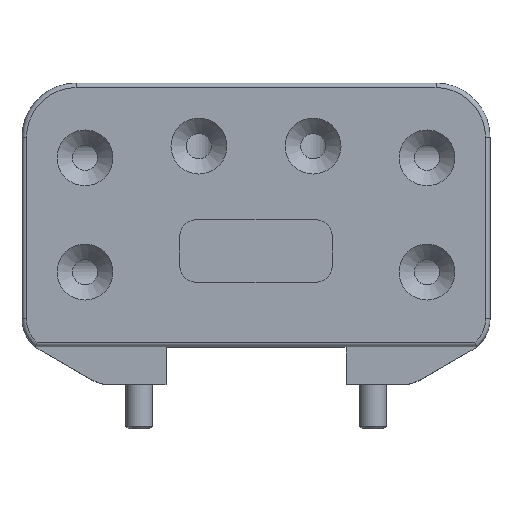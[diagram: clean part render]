
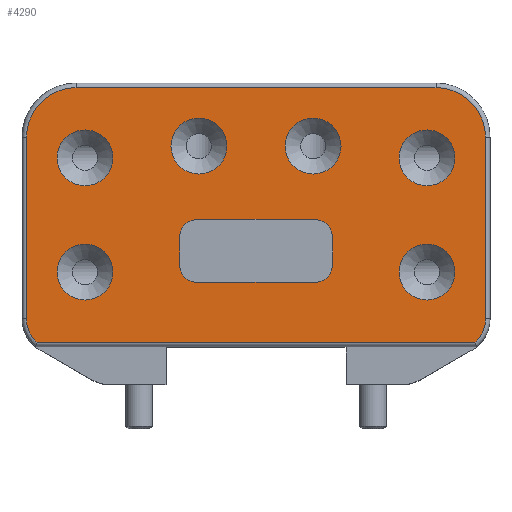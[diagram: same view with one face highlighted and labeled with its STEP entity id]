
A CAD part, top view. The second image highlights one B-rep face of the part: STEP entity #4290.
In plain terms, the highlighted planar face has unit normal (0, 0, 1).
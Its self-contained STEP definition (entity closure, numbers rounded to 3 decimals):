
#165=FACE_BOUND('',#642,.T.);
#166=FACE_BOUND('',#643,.T.);
#167=FACE_BOUND('',#644,.T.);
#168=FACE_BOUND('',#645,.T.);
#169=FACE_BOUND('',#646,.T.);
#170=FACE_BOUND('',#647,.T.);
#171=FACE_BOUND('',#648,.T.);
#241=PLANE('',#4678);
#394=FACE_OUTER_BOUND('',#641,.T.);
#641=EDGE_LOOP('',(#3127,#3128,#3129,#3130,#3131,#3132,#3133,#3134));
#642=EDGE_LOOP('',(#3135));
#643=EDGE_LOOP('',(#3136));
#644=EDGE_LOOP('',(#3137));
#645=EDGE_LOOP('',(#3138,#3139,#3140,#3141,#3142,#3143,#3144,#3145));
#646=EDGE_LOOP('',(#3146));
#647=EDGE_LOOP('',(#3147));
#648=EDGE_LOOP('',(#3148));
#908=LINE('',#6778,#1175);
#911=LINE('',#6821,#1178);
#913=LINE('',#6833,#1180);
#915=LINE('',#6845,#1182);
#928=LINE('',#6895,#1195);
#929=LINE('',#6899,#1196);
#930=LINE('',#6903,#1197);
#931=LINE('',#6906,#1198);
#1175=VECTOR('',#5436,10.);
#1178=VECTOR('',#5451,10.);
#1180=VECTOR('',#5465,10.);
#1182=VECTOR('',#5479,10.);
#1195=VECTOR('',#5528,10.);
#1196=VECTOR('',#5531,10.);
#1197=VECTOR('',#5534,10.);
#1198=VECTOR('',#5537,10.);
#1458=CIRCLE('',#4648,3.5);
#1464=CIRCLE('',#4656,5.5);
#1468=CIRCLE('',#4662,5.5);
#1471=CIRCLE('',#4667,3.5);
#1478=CIRCLE('',#4679,3.1);
#1479=CIRCLE('',#4680,3.1);
#1480=CIRCLE('',#4681,3.1);
#1481=CIRCLE('',#4682,2.);
#1482=CIRCLE('',#4683,2.);
#1483=CIRCLE('',#4684,2.);
#1484=CIRCLE('',#4685,2.);
#1485=CIRCLE('',#4686,3.1);
#1486=CIRCLE('',#4687,3.1);
#1487=CIRCLE('',#4688,3.1);
#1788=VERTEX_POINT('',#6776);
#1789=VERTEX_POINT('',#6777);
#1792=VERTEX_POINT('',#6811);
#1794=VERTEX_POINT('',#6817);
#1796=VERTEX_POINT('',#6823);
#1798=VERTEX_POINT('',#6829);
#1800=VERTEX_POINT('',#6835);
#1802=VERTEX_POINT('',#6841);
#1817=VERTEX_POINT('',#6885);
#1818=VERTEX_POINT('',#6887);
#1819=VERTEX_POINT('',#6889);
#1820=VERTEX_POINT('',#6891);
#1821=VERTEX_POINT('',#6892);
#1822=VERTEX_POINT('',#6894);
#1823=VERTEX_POINT('',#6896);
#1824=VERTEX_POINT('',#6898);
#1825=VERTEX_POINT('',#6900);
#1826=VERTEX_POINT('',#6902);
#1827=VERTEX_POINT('',#6904);
#1828=VERTEX_POINT('',#6907);
#1829=VERTEX_POINT('',#6909);
#1830=VERTEX_POINT('',#6911);
#2277=EDGE_CURVE('',#1788,#1789,#908,.T.);
#2281=EDGE_CURVE('',#1789,#1792,#1458,.T.);
#2286=EDGE_CURVE('',#1792,#1794,#911,.T.);
#2289=EDGE_CURVE('',#1794,#1796,#1464,.T.);
#2292=EDGE_CURVE('',#1796,#1798,#913,.T.);
#2295=EDGE_CURVE('',#1798,#1800,#1468,.T.);
#2298=EDGE_CURVE('',#1800,#1802,#915,.T.);
#2300=EDGE_CURVE('',#1802,#1788,#1471,.T.);
#2319=EDGE_CURVE('',#1817,#1817,#1478,.T.);
#2320=EDGE_CURVE('',#1818,#1818,#1479,.T.);
#2321=EDGE_CURVE('',#1819,#1819,#1480,.T.);
#2322=EDGE_CURVE('',#1820,#1821,#1481,.T.);
#2323=EDGE_CURVE('',#1821,#1822,#928,.T.);
#2324=EDGE_CURVE('',#1822,#1823,#1482,.T.);
#2325=EDGE_CURVE('',#1823,#1824,#929,.T.);
#2326=EDGE_CURVE('',#1824,#1825,#1483,.T.);
#2327=EDGE_CURVE('',#1825,#1826,#930,.T.);
#2328=EDGE_CURVE('',#1826,#1827,#1484,.T.);
#2329=EDGE_CURVE('',#1827,#1820,#931,.T.);
#2330=EDGE_CURVE('',#1828,#1828,#1485,.T.);
#2331=EDGE_CURVE('',#1829,#1829,#1486,.T.);
#2332=EDGE_CURVE('',#1830,#1830,#1487,.T.);
#3127=ORIENTED_EDGE('',*,*,#2277,.F.);
#3128=ORIENTED_EDGE('',*,*,#2300,.F.);
#3129=ORIENTED_EDGE('',*,*,#2298,.F.);
#3130=ORIENTED_EDGE('',*,*,#2295,.F.);
#3131=ORIENTED_EDGE('',*,*,#2292,.F.);
#3132=ORIENTED_EDGE('',*,*,#2289,.F.);
#3133=ORIENTED_EDGE('',*,*,#2286,.F.);
#3134=ORIENTED_EDGE('',*,*,#2281,.F.);
#3135=ORIENTED_EDGE('',*,*,#2319,.F.);
#3136=ORIENTED_EDGE('',*,*,#2320,.F.);
#3137=ORIENTED_EDGE('',*,*,#2321,.F.);
#3138=ORIENTED_EDGE('',*,*,#2322,.T.);
#3139=ORIENTED_EDGE('',*,*,#2323,.T.);
#3140=ORIENTED_EDGE('',*,*,#2324,.T.);
#3141=ORIENTED_EDGE('',*,*,#2325,.T.);
#3142=ORIENTED_EDGE('',*,*,#2326,.T.);
#3143=ORIENTED_EDGE('',*,*,#2327,.T.);
#3144=ORIENTED_EDGE('',*,*,#2328,.T.);
#3145=ORIENTED_EDGE('',*,*,#2329,.T.);
#3146=ORIENTED_EDGE('',*,*,#2330,.F.);
#3147=ORIENTED_EDGE('',*,*,#2331,.F.);
#3148=ORIENTED_EDGE('',*,*,#2332,.F.);
#4290=ADVANCED_FACE('',(#394,#165,#166,#167,#168,#169,#170,#171),#241,.T.);
#4648=AXIS2_PLACEMENT_3D('',#6812,#5440,#5441);
#4656=AXIS2_PLACEMENT_3D('',#6827,#5458,#5459);
#4662=AXIS2_PLACEMENT_3D('',#6839,#5472,#5473);
#4667=AXIS2_PLACEMENT_3D('',#6848,#5484,#5485);
#4678=AXIS2_PLACEMENT_3D('',#6884,#5518,#5519);
#4679=AXIS2_PLACEMENT_3D('',#6886,#5520,#5521);
#4680=AXIS2_PLACEMENT_3D('',#6888,#5522,#5523);
#4681=AXIS2_PLACEMENT_3D('',#6890,#5524,#5525);
#4682=AXIS2_PLACEMENT_3D('',#6893,#5526,#5527);
#4683=AXIS2_PLACEMENT_3D('',#6897,#5529,#5530);
#4684=AXIS2_PLACEMENT_3D('',#6901,#5532,#5533);
#4685=AXIS2_PLACEMENT_3D('',#6905,#5535,#5536);
#4686=AXIS2_PLACEMENT_3D('',#6908,#5538,#5539);
#4687=AXIS2_PLACEMENT_3D('',#6910,#5540,#5541);
#4688=AXIS2_PLACEMENT_3D('',#6912,#5542,#5543);
#5436=DIRECTION('',(-1.,0.,0.));
#5440=DIRECTION('center_axis',(0.,0.,
-1.));
#5441=DIRECTION('ref_axis',(-0.903,-0.431,0.));
#5451=DIRECTION('',(0.,1.,0.));
#5458=DIRECTION('center_axis',(0.,0.,
-1.));
#5459=DIRECTION('ref_axis',(-0.707,0.707,0.));
#5465=DIRECTION('',(1.,0.,0.));
#5472=DIRECTION('center_axis',(0.,0.,
-1.));
#5473=DIRECTION('ref_axis',(0.707,0.707,0.));
#5479=DIRECTION('',(0.,-1.,0.));
#5484=DIRECTION('center_axis',(0.,0.,
-1.));
#5485=DIRECTION('ref_axis',(0.903,-0.431,0.));
#5518=DIRECTION('center_axis',(0.,0.,
1.));
#5519=DIRECTION('ref_axis',(1.,0.,0.));
#5520=DIRECTION('center_axis',(0.,0.,
1.));
#5521=DIRECTION('ref_axis',(-1.,0.,0.));
#5522=DIRECTION('center_axis',(0.,0.,
1.));
#5523=DIRECTION('ref_axis',(-1.,0.,0.));
#5524=DIRECTION('center_axis',(0.,0.,
1.));
#5525=DIRECTION('ref_axis',(-1.,0.,0.));
#5526=DIRECTION('center_axis',(0.,0.,
-1.));
#5527=DIRECTION('ref_axis',(-1.,0.,0.));
#5528=DIRECTION('',(0.,-1.,0.));
#5529=DIRECTION('center_axis',(0.,0.,
-1.));
#5530=DIRECTION('ref_axis',(0.,1.,0.));
#5531=DIRECTION('',(-1.,0.,0.));
#5532=DIRECTION('center_axis',(0.,0.,
-1.));
#5533=DIRECTION('ref_axis',(1.,0.,0.));
#5534=DIRECTION('',(0.,1.,0.));
#5535=DIRECTION('center_axis',(0.,0.,
-1.));
#5536=DIRECTION('ref_axis',(0.,-1.,0.));
#5537=DIRECTION('',(1.,0.,0.));
#5538=DIRECTION('center_axis',(0.,0.,
1.));
#5539=DIRECTION('ref_axis',(-1.,0.,0.));
#5540=DIRECTION('center_axis',(0.,0.,
1.));
#5541=DIRECTION('ref_axis',(-1.,0.,0.));
#5542=DIRECTION('center_axis',(0.,0.,
1.));
#5543=DIRECTION('ref_axis',(-1.,0.,0.));
#6776=CARTESIAN_POINT('',(24.333,-14.15,13.8));
#6777=CARTESIAN_POINT('',(-24.333,-14.15,13.8));
#6778=CARTESIAN_POINT('',(-5.,-14.15,13.8));
#6811=CARTESIAN_POINT('',(-25.5,-11.541,13.8));
#6812=CARTESIAN_POINT('Origin',(-22.,-11.541,13.8));
#6817=CARTESIAN_POINT('',(-25.5,8.65,13.8));
#6821=CARTESIAN_POINT('',(-25.5,-10.475,13.8));
#6823=CARTESIAN_POINT('',(-20.,14.15,13.8));
#6827=CARTESIAN_POINT('Origin',(-20.,8.65,13.8));
#6829=CARTESIAN_POINT('',(20.,14.15,13.8));
#6833=CARTESIAN_POINT('',(-13.,14.15,13.8));
#6835=CARTESIAN_POINT('',(25.5,8.65,13.8));
#6839=CARTESIAN_POINT('Origin',(20.,8.65,13.8));
#6841=CARTESIAN_POINT('',(25.5,-11.541,13.8));
#6845=CARTESIAN_POINT('',(25.5,6.275,13.8));
#6848=CARTESIAN_POINT('Origin',(22.,-11.541,13.8));
#6884=CARTESIAN_POINT('Origin',(0.,-2.1,13.8));
#6885=CARTESIAN_POINT('',(9.45,7.65,13.8));
#6886=CARTESIAN_POINT('Origin',(6.35,7.65,13.8));
#6887=CARTESIAN_POINT('',(22.1,6.35,13.8));
#6888=CARTESIAN_POINT('Origin',(19.,6.35,13.8));
#6889=CARTESIAN_POINT('',(-15.9,-6.35,13.8));
#6890=CARTESIAN_POINT('Origin',(-19.,-6.35,13.8));
#6891=CARTESIAN_POINT('',(6.5,-0.5,13.8));
#6892=CARTESIAN_POINT('',(8.5,-2.5,13.8));
#6893=CARTESIAN_POINT('Origin',(6.5,-2.5,13.8));
#6894=CARTESIAN_POINT('',(8.5,-5.5,13.8));
#6895=CARTESIAN_POINT('',(8.5,-3.8,13.8));
#6896=CARTESIAN_POINT('',(6.5,-7.5,13.8));
#6897=CARTESIAN_POINT('Origin',(6.5,-5.5,13.8));
#6898=CARTESIAN_POINT('',(-6.5,-7.5,13.8));
#6899=CARTESIAN_POINT('',(-3.25,-7.5,13.8));
#6900=CARTESIAN_POINT('',(-8.5,-5.5,13.8));
#6901=CARTESIAN_POINT('Origin',(-6.5,-5.5,13.8));
#6902=CARTESIAN_POINT('',(-8.5,-2.5,13.8));
#6903=CARTESIAN_POINT('',(-8.5,-2.3,13.8));
#6904=CARTESIAN_POINT('',(-6.5,-0.5,13.8));
#6905=CARTESIAN_POINT('Origin',(-6.5,-2.5,13.8));
#6906=CARTESIAN_POINT('',(3.25,-0.5,13.8));
#6907=CARTESIAN_POINT('',(-15.9,6.35,13.8));
#6908=CARTESIAN_POINT('Origin',(-19.,6.35,13.8));
#6909=CARTESIAN_POINT('',(22.1,-6.35,13.8));
#6910=CARTESIAN_POINT('Origin',(19.,-6.35,13.8));
#6911=CARTESIAN_POINT('',(-3.25,7.65,13.8));
#6912=CARTESIAN_POINT('Origin',(-6.35,7.65,13.8));
